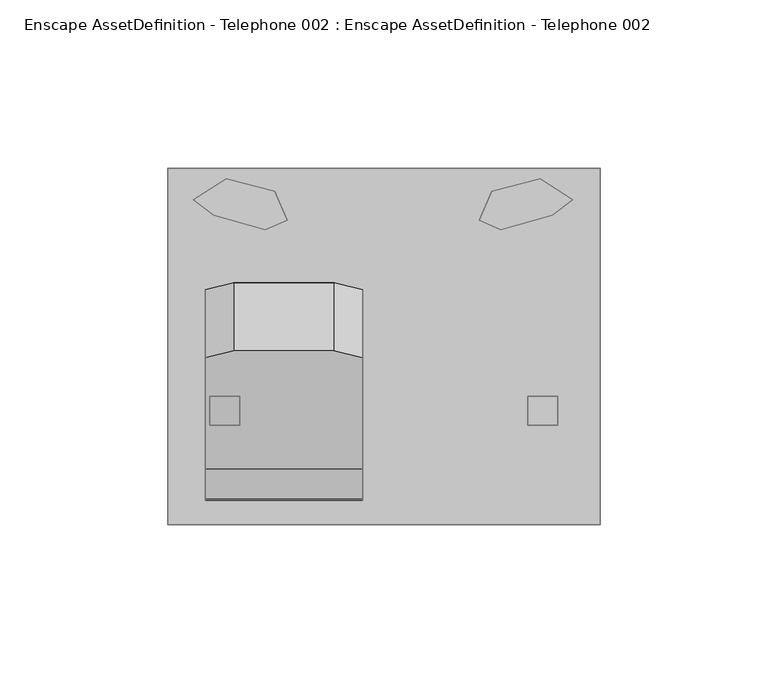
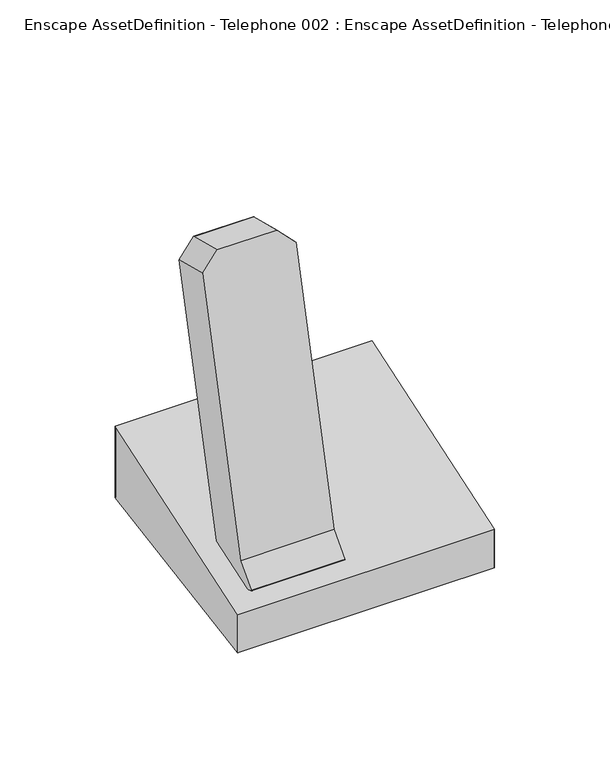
"""IFC4 building model written with IfcOpenShell, lengths in millimetres: geographic element geometry, Enscape AssetDefinition - Telephone 002 : Enscape AssetDefinition - Telephone 002."""

from ifc_helpers import new_model, si_unit, origin, place, context, project, spatial, triangles, source, transform, mapped, element, save


def enscape_assetdefinition_telephone_002_enscape_9aaeaa57(model_context):
    return source(origin(), model_context, "Body", "Tessellation", [
        triangles([(64.360997, 55.4820013, 17.0990006), (-64.2580009, 55.4820013, 17.0990006), (-64.2580009, -50.6649989, -0.499), (64.360997, -50.6649989, -0.499), (-64.2580009, 55.4820013, 54.9930005), (64.360997, 55.4820013, 54.9930005), (-64.2580009, -50.6649989, 19.6679992), (64.360997, -50.6649989, 19.6679992), (32.1000006, 48.5259988, 19.1259992), (46.5620017, 52.2739986, 19.1259992), (46.5620017, 52.2739986, 0.0), (50.1479973, 41.4210001, 0.0), (48.3549972, 46.8469997, 0.0), (33.466001, 42.8150011, 0.0), (32.1000006, 48.5259988, 0.0), (28.3539992, 39.9070027, 19.1259992), (34.8329983, 37.1039988, 19.1259992), (34.8329983, 37.1039988, 0.0), (56.2780011, 45.9810006, 19.1259992), (50.1479973, 41.4210001, 19.1259992), (-46.9720012, 52.2739986, 19.1259992), (-32.5100001, 48.5259988, 19.1259992), (-56.6880006, 45.9810006, 19.1259992), (-46.9720012, 52.2739986, 0.0), (-32.5100001, 48.5259988, 0.0), (-33.8760027, 42.8150011, 0.0), (-35.2419986, 37.1039988, 0.0), (-28.764001, 39.9070027, 19.1259992), (-50.5569976, 41.4210001, 0.0), (-48.7650013, 46.8469997, 0.0), (-50.5569976, 41.4210001, 19.1259992), (-35.2419986, 37.1039988, 19.1259992), (42.860002, -12.4549992, 12.8730004), (42.860002, -21.0539997, 12.8730004), (42.860002, -12.4549992, 0.0), (51.7690012, -12.4549992, 12.8730004), (51.7690012, -12.4549992, 0.0), (42.860002, -21.0539997, 0.0), (51.7690012, -21.0539997, 0.0), (51.7690012, -21.0539997, 12.8730004), (-42.8919995, -21.0539997, 12.8730004), (-51.7999995, -12.4549992, 12.8730004), (-42.8919995, -12.4549992, 0.0), (-51.7999995, -12.4549992, 0.0), (-51.7999995, -21.0539997, 12.8730004), (-51.7999995, -21.0539997, 0.0), (-42.8919995, -21.0539997, 0.0), (-42.8919995, -12.4549992, 12.8730004), (-44.7040028, 21.3200013, 169.2550032), (-44.7040028, 1.0189999, 174.3389952), (-14.7740006, 1.0189999, 174.3389952), (-53.1810017, 19.2609996, 161.0320131), (-6.2970005, -16.9410001, 16.4610001), (-53.1810017, -16.9410001, 16.4610001), (-14.7740006, 21.3200013, 169.2550032), (-6.2970005, 19.2609996, 161.0320131), (-6.2970005, -34.0540011, 34.2770002), (-6.2970005, -43.425002, 24.046), (-53.1810017, -43.425002, 24.046), (-53.1810017, -34.0540011, 34.2770002), (-6.2970005, -1.04, 166.1160051), (-53.1810017, -1.04, 166.1160051), (-6.2970005, -37.2419991, 21.5439997), (-53.1810017, -37.2419991, 21.5439997)], [[54, 64, 59], [59, 64, 63], [63, 58, 59], [59, 60, 54], [62, 52, 54], [54, 60, 62], [61, 62, 60], [57, 61, 60], [59, 58, 57], [57, 60, 59], [57, 58, 63], [63, 53, 57], [57, 53, 56], [56, 61, 57], [56, 55, 51], [51, 61, 56], [61, 50, 62], [61, 51, 50], [62, 50, 49], [49, 52, 62], [53, 49, 56], [49, 55, 56], [53, 54, 49], [54, 52, 49], [51, 55, 49], [49, 50, 51], [47, 43, 48], [48, 41, 47], [46, 47, 41], [41, 45, 46], [44, 46, 45], [42, 48, 43], [43, 44, 42], [45, 42, 44], [41, 48, 42], [42, 45, 41], [39, 37, 36], [36, 40, 39], [38, 39, 40], [40, 34, 38], [35, 38, 34], [33, 36, 37], [37, 35, 33], [34, 33, 35], [40, 36, 33], [33, 34, 40], [27, 28, 32], [27, 32, 31], [31, 29, 27], [29, 31, 23], [29, 23, 30], [26, 28, 27], [26, 27, 29], [29, 30, 26], [25, 28, 26], [25, 22, 28], [24, 23, 21], [30, 23, 24], [22, 25, 24], [24, 21, 22], [26, 30, 24], [24, 25, 26], [12, 19, 20], [20, 17, 18], [18, 12, 20], [18, 17, 16], [15, 16, 9], [15, 14, 16], [14, 18, 16], [12, 18, 14], [12, 13, 19], [14, 13, 12], [11, 10, 19], [13, 11, 19], [9, 10, 11], [11, 15, 9], [14, 15, 11], [11, 13, 14], [8, 6, 5], [5, 7, 8], [8, 7, 3], [6, 8, 4], [3, 4, 8], [5, 6, 1], [4, 1, 6], [1, 2, 5], [7, 5, 2], [2, 3, 7], [4, 3, 2], [2, 1, 4]], closed=False),
    ])


if __name__ == "__main__":
    model = new_model("IFC4")
    model_context = context("Model", 3, world=origin())
    ifc_project = project(units=[si_unit("LENGTHUNIT", "METRE", prefix="MILLI")], contexts=[model_context])
    site = spatial("IfcSite", under=ifc_project)
    building = spatial("IfcBuilding", under=site)
    placement = place(None, origin())
    enscape_assetdefinition_telephone_002_enscape_shape = enscape_assetdefinition_telephone_002_enscape_9aaeaa57(model_context)
    element("IfcGeographicElement", 1, ObjectType="Enscape AssetDefinition - Telephone 002 : Enscape AssetDefinition - Telephone 002", at=placement, inside=building, context=model_context, shape_type="MappedRepresentation", body=[
        mapped(enscape_assetdefinition_telephone_002_enscape_shape, transform((0.0, 0.0, 0.0), x_axis=(1.0, 0.0, 0.0), y_axis=(0.0, 1.0, 0.0), z_axis=(0.0, 0.0, 1.0))),
    ])
    save(model, "model.ifc")
